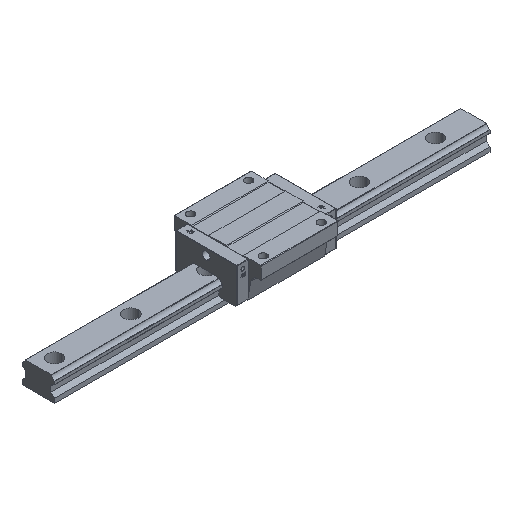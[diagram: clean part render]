
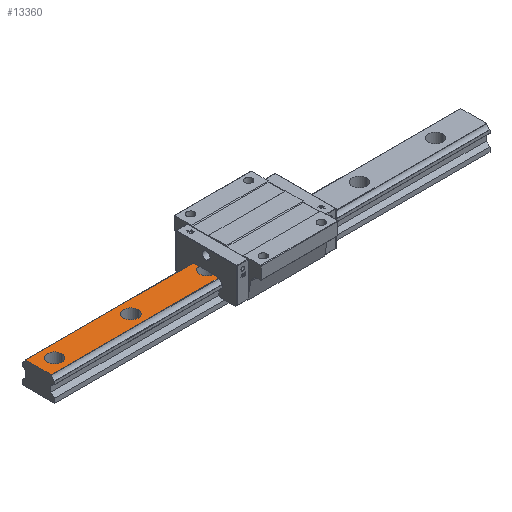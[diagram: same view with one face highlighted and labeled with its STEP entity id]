
A CAD part, isometric view. The second image highlights one B-rep face of the part: STEP entity #13360.
In plain terms, the highlighted planar face has unit normal (0, 0, 1).
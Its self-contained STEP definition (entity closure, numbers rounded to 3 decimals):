
#5 = DIRECTION ( 'NONE',  ( 0., 0., -1. ) ) ;
#9 = CARTESIAN_POINT ( 'NONE',  ( -287.5, 0., 32. ) ) ;
#270 = DIRECTION ( 'NONE',  ( -1., 0., 0. ) ) ;
#338 = VERTEX_POINT ( 'NONE', #14115 ) ;
#372 = CARTESIAN_POINT ( 'NONE',  ( -277.5, 0., 32. ) ) ;
#1000 = ORIENTED_EDGE ( 'NONE', *, *, #14438, .T. ) ;
#1218 = ORIENTED_EDGE ( 'NONE', *, *, #14906, .T. ) ;
#1245 = AXIS2_PLACEMENT_3D ( 'NONE', #6516, #11211, #10419 ) ;
#1499 = EDGE_LOOP ( 'NONE', ( #14169, #9479 ) ) ;
#1504 = CARTESIAN_POINT ( 'NONE',  ( 300., -17.738, 32. ) ) ;
#1698 = DIRECTION ( 'NONE',  ( 0., 0., -1. ) ) ;
#1892 = ORIENTED_EDGE ( 'NONE', *, *, #3341, .T. ) ;
#2669 = CARTESIAN_POINT ( 'NONE',  ( -68.7, 17.738, 32. ) ) ;
#2762 = CARTESIAN_POINT ( 'NONE',  ( -67.5, 0., 32. ) ) ;
#3145 = VERTEX_POINT ( 'NONE', #8829 ) ;
#3170 = PLANE ( 'NONE',  #6884 ) ;
#3341 = EDGE_CURVE ( 'NONE', #5572, #338, #12656, .T. ) ;
#3600 = CARTESIAN_POINT ( 'NONE',  ( -172.5, 0., 32. ) ) ;
#3674 = EDGE_CURVE ( 'NONE', #3145, #5450, #14176, .T. ) ;
#3710 = DIRECTION ( 'NONE',  ( 0., 0., -1. ) ) ;
#3890 = DIRECTION ( 'NONE',  ( 0., 0., -1. ) ) ;
#3953 = EDGE_CURVE ( 'NONE', #10348, #9853, #4550, .T. ) ;
#4134 = ORIENTED_EDGE ( 'NONE', *, *, #3674, .T. ) ;
#4297 = ORIENTED_EDGE ( 'NONE', *, *, #6960, .F. ) ;
#4550 = LINE ( 'NONE', #9172, #13404 ) ;
#4814 = DIRECTION ( 'NONE',  ( -1., 0., 0. ) ) ;
#5147 = EDGE_LOOP ( 'NONE', ( #1218, #13945 ) ) ;
#5213 = CARTESIAN_POINT ( 'NONE',  ( -277.5, 0., 32. ) ) ;
#5253 = LINE ( 'NONE', #10181, #13983 ) ;
#5450 = VERTEX_POINT ( 'NONE', #13993 ) ;
#5523 = EDGE_CURVE ( 'NONE', #13473, #6918, #8581, .T. ) ;
#5572 = VERTEX_POINT ( 'NONE', #11883 ) ;
#5750 = VECTOR ( 'NONE', #6383, 1000. ) ;
#6231 = LINE ( 'NONE', #1504, #5750 ) ;
#6261 = DIRECTION ( 'NONE',  ( 0., 0., -1. ) ) ;
#6383 = DIRECTION ( 'NONE',  ( 1., 0., 0. ) ) ;
#6396 = VERTEX_POINT ( 'NONE', #9584 ) ;
#6424 = DIRECTION ( 'NONE',  ( -1., 0., 0. ) ) ;
#6510 = FACE_BOUND ( 'NONE', #1499, .T. ) ;
#6516 = CARTESIAN_POINT ( 'NONE',  ( -67.5, 0., 32. ) ) ;
#6884 = AXIS2_PLACEMENT_3D ( 'NONE', #13558, #14604, #10069 ) ;
#6918 = VERTEX_POINT ( 'NONE', #8816 ) ;
#6960 = EDGE_CURVE ( 'NONE', #5572, #10673, #5253, .T. ) ;
#7407 = DIRECTION ( 'NONE',  ( -1., 0., 0. ) ) ;
#8227 = EDGE_CURVE ( 'NONE', #10703, #6396, #10869, .T. ) ;
#8442 = DIRECTION ( 'NONE',  ( -1., 0., 0. ) ) ;
#8581 = CIRCLE ( 'NONE', #11248, 10. ) ;
#8816 = CARTESIAN_POINT ( 'NONE',  ( -267.5, 0., 32. ) ) ;
#8829 = CARTESIAN_POINT ( 'NONE',  ( -300., 17.738, 32. ) ) ;
#8849 = AXIS2_PLACEMENT_3D ( 'NONE', #372, #3890, #8442 ) ;
#9160 = CARTESIAN_POINT ( 'NONE',  ( -182.5, 0., 32. ) ) ;
#9172 = CARTESIAN_POINT ( 'NONE',  ( -68.7, -17.738, 32. ) ) ;
#9324 = EDGE_CURVE ( 'NONE', #10348, #3145, #11909, .T. ) ;
#9335 = CARTESIAN_POINT ( 'NONE',  ( -300., 0., 32. ) ) ;
#9479 = ORIENTED_EDGE ( 'NONE', *, *, #8227, .T. ) ;
#9584 = CARTESIAN_POINT ( 'NONE',  ( -162.5, 0., 32. ) ) ;
#9853 = VERTEX_POINT ( 'NONE', #14915 ) ;
#10069 = DIRECTION ( 'NONE',  ( 0., -1., 0. ) ) ;
#10181 = CARTESIAN_POINT ( 'NONE',  ( -68.7, -17.738, 32. ) ) ;
#10348 = VERTEX_POINT ( 'NONE', #2669 ) ;
#10419 = DIRECTION ( 'NONE',  ( -1., 0., 0. ) ) ;
#10479 = VECTOR ( 'NONE', #14101, 1000. ) ;
#10673 = VERTEX_POINT ( 'NONE', #10912 ) ;
#10703 = VERTEX_POINT ( 'NONE', #9160 ) ;
#10770 = DIRECTION ( 'NONE',  ( -1., 0., 0. ) ) ;
#10869 = CIRCLE ( 'NONE', #11876, 10. ) ;
#10912 = CARTESIAN_POINT ( 'NONE',  ( -68.7, -17.738, 32. ) ) ;
#11054 = FACE_OUTER_BOUND ( 'NONE', #13826, .T. ) ;
#11117 = ORIENTED_EDGE ( 'NONE', *, *, #12261, .T. ) ;
#11211 = DIRECTION ( 'NONE',  ( 0., 0., -1. ) ) ;
#11248 = AXIS2_PLACEMENT_3D ( 'NONE', #5213, #1698, #6424 ) ;
#11279 = EDGE_CURVE ( 'NONE', #6396, #10703, #12798, .T. ) ;
#11289 = FACE_BOUND ( 'NONE', #5147, .T. ) ;
#11405 = VECTOR ( 'NONE', #10770, 1000. ) ;
#11557 = ORIENTED_EDGE ( 'NONE', *, *, #9324, .T. ) ;
#11748 = DIRECTION ( 'NONE',  ( 0., -1., 0. ) ) ;
#11876 = AXIS2_PLACEMENT_3D ( 'NONE', #14091, #3710, #270 ) ;
#11883 = CARTESIAN_POINT ( 'NONE',  ( -68.7, -9.928, 32. ) ) ;
#11909 = LINE ( 'NONE', #12070, #11405 ) ;
#11989 = ORIENTED_EDGE ( 'NONE', *, *, #3953, .F. ) ;
#12070 = CARTESIAN_POINT ( 'NONE',  ( 300., 17.738, 32. ) ) ;
#12261 = EDGE_CURVE ( 'NONE', #5450, #10673, #6231, .T. ) ;
#12656 = CIRCLE ( 'NONE', #1245, 10. ) ;
#12798 = CIRCLE ( 'NONE', #14741, 10. ) ;
#13360 = ADVANCED_FACE ( 'NONE', ( #6510, #11289, #11054 ), #3170, .F. ) ;
#13404 = VECTOR ( 'NONE', #11748, 1000. ) ;
#13473 = VERTEX_POINT ( 'NONE', #9 ) ;
#13558 = CARTESIAN_POINT ( 'NONE',  ( 300., 0., 32. ) ) ;
#13826 = EDGE_LOOP ( 'NONE', ( #11117, #4297, #1892, #1000, #11989, #11557, #4134 ) ) ;
#13904 = AXIS2_PLACEMENT_3D ( 'NONE', #2762, #6261, #7407 ) ;
#13945 = ORIENTED_EDGE ( 'NONE', *, *, #5523, .T. ) ;
#13983 = VECTOR ( 'NONE', #14564, 1000. ) ;
#13993 = CARTESIAN_POINT ( 'NONE',  ( -300., -17.738, 32. ) ) ;
#14091 = CARTESIAN_POINT ( 'NONE',  ( -172.5, 0., 32. ) ) ;
#14101 = DIRECTION ( 'NONE',  ( 0., -1., 0. ) ) ;
#14115 = CARTESIAN_POINT ( 'NONE',  ( -77.5, 0., 32. ) ) ;
#14169 = ORIENTED_EDGE ( 'NONE', *, *, #11279, .T. ) ;
#14176 = LINE ( 'NONE', #9335, #10479 ) ;
#14438 = EDGE_CURVE ( 'NONE', #338, #9853, #14638, .T. ) ;
#14564 = DIRECTION ( 'NONE',  ( 0., -1., 0. ) ) ;
#14604 = DIRECTION ( 'NONE',  ( 0., 0., -1. ) ) ;
#14638 = CIRCLE ( 'NONE', #13904, 10. ) ;
#14741 = AXIS2_PLACEMENT_3D ( 'NONE', #3600, #5, #4814 ) ;
#14895 = CIRCLE ( 'NONE', #8849, 10. ) ;
#14906 = EDGE_CURVE ( 'NONE', #6918, #13473, #14895, .T. ) ;
#14915 = CARTESIAN_POINT ( 'NONE',  ( -68.7, 9.928, 32. ) ) ;
